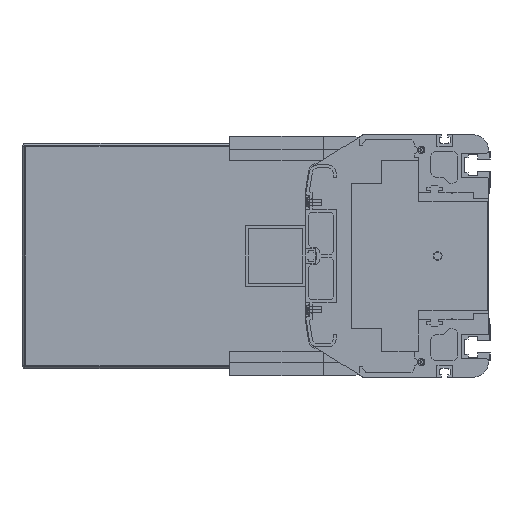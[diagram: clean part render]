
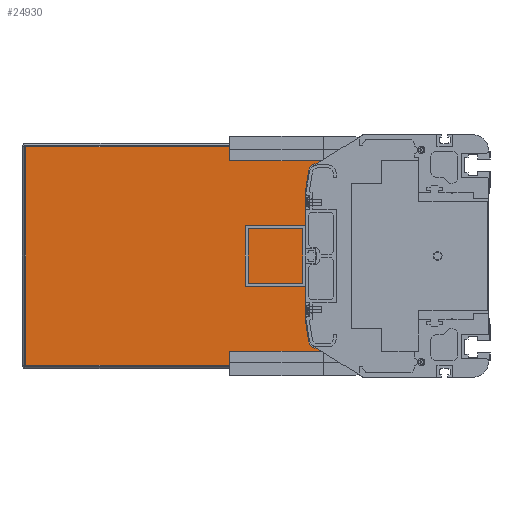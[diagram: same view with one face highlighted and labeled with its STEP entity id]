
A CAD part, left-side view. The second image highlights one B-rep face of the part: STEP entity #24930.
In plain terms, the highlighted planar face has unit normal (-1, 0, 0).
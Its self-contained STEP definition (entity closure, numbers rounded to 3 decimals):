
#1623=DIRECTION('',(0.,1.,0.));
#1624=VECTOR('',#1623,220.5);
#1625=CARTESIAN_POINT('',(4386.5,86.,72.));
#1626=LINE('',#1625,#1624);
#1674=DIRECTION('',(0.,-1.,0.));
#1675=VECTOR('',#1674,220.5);
#1676=CARTESIAN_POINT('',(4386.5,306.5,-72.));
#1677=LINE('',#1676,#1675);
#1733=DIRECTION('',(0.,0.,-1.));
#1734=VECTOR('',#1733,144.);
#1735=CARTESIAN_POINT('',(4386.5,306.5,72.));
#1736=LINE('',#1735,#1734);
#1767=CARTESIAN_POINT('',(4386.5,114.728,56.));
#1768=DIRECTION('',(-1.,0.,0.));
#1769=DIRECTION('',(0.,0.,1.));
#1770=AXIS2_PLACEMENT_3D('',#1767,#1768,#1769);
#1772=DIRECTION('',(0.,0.156,-0.988));
#1773=VECTOR('',#1772,14.963);
#1774=CARTESIAN_POINT('',(4386.5,119.666,56.78));
#1775=LINE('',#1774,#1773);
#1776=DIRECTION('',(0.,-0.156,-0.988));
#1777=VECTOR('',#1776,14.963);
#1778=CARTESIAN_POINT('',(4386.5,122.,-42.));
#1779=LINE('',#1778,#1777);
#1780=CARTESIAN_POINT('',(4386.5,114.728,-56.));
#1781=DIRECTION('',(-1.,0.,0.));
#1782=DIRECTION('',(0.,0.988,-0.156));
#1783=AXIS2_PLACEMENT_3D('',#1780,#1781,#1782);
#1790=DIRECTION('',(0.,0.,-1.));
#1791=VECTOR('',#1790,11.);
#1792=CARTESIAN_POINT('',(4386.5,86.,-61.));
#1793=LINE('',#1792,#1791);
#1799=DIRECTION('',(0.,0.,-1.));
#1800=VECTOR('',#1799,11.);
#1801=CARTESIAN_POINT('',(4386.5,86.,72.));
#1802=LINE('',#1801,#1800);
#3230=DIRECTION('',(0.,1.,0.));
#3231=VECTOR('',#3230,28.728);
#3232=CARTESIAN_POINT('',(4386.5,86.,-61.));
#3233=LINE('',#3232,#3231);
#3250=DIRECTION('',(0.,0.,1.));
#3251=VECTOR('',#3250,84.);
#3252=CARTESIAN_POINT('',(4386.5,122.,-42.));
#3253=LINE('',#3252,#3251);
#3274=DIRECTION('',(0.,-1.,0.));
#3275=VECTOR('',#3274,28.728);
#3276=CARTESIAN_POINT('',(4386.5,114.728,61.));
#3277=LINE('',#3276,#3275);
#19278=CARTESIAN_POINT('',(4386.5,306.5,-72.));
#19279=CARTESIAN_POINT('',(4386.5,86.,-72.));
#19280=VERTEX_POINT('',#19278);
#19281=VERTEX_POINT('',#19279);
#19282=CARTESIAN_POINT('',(4386.5,86.,-61.));
#19283=VERTEX_POINT('',#19282);
#19284=CARTESIAN_POINT('',(4386.5,114.728,-61.));
#19285=VERTEX_POINT('',#19284);
#19286=CARTESIAN_POINT('',(4386.5,119.666,-56.78));
#19287=VERTEX_POINT('',#19286);
#19288=CARTESIAN_POINT('',(4386.5,122.,-42.));
#19289=VERTEX_POINT('',#19288);
#19290=CARTESIAN_POINT('',(4386.5,122.,42.));
#19291=VERTEX_POINT('',#19290);
#19292=CARTESIAN_POINT('',(4386.5,119.666,56.78));
#19293=VERTEX_POINT('',#19292);
#19294=CARTESIAN_POINT('',(4386.5,114.728,61.));
#19295=VERTEX_POINT('',#19294);
#19296=CARTESIAN_POINT('',(4386.5,86.,61.));
#19297=VERTEX_POINT('',#19296);
#19298=CARTESIAN_POINT('',(4386.5,86.,72.));
#19299=VERTEX_POINT('',#19298);
#19300=CARTESIAN_POINT('',(4386.5,306.5,72.));
#19301=VERTEX_POINT('',#19300);
#24902=CARTESIAN_POINT('',(4386.5,196.25,0.));
#24903=DIRECTION('',(1.,0.,0.));
#24904=DIRECTION('',(0.,0.,-1.));
#24905=AXIS2_PLACEMENT_3D('',#24902,#24903,#24904);
#24906=PLANE('',#24905);
#24907=ORIENTED_EDGE('',*,*,#24775,.F.);
#24908=ORIENTED_EDGE('',*,*,#24871,.F.);
#24909=ORIENTED_EDGE('',*,*,#24726,.F.);
#24911=ORIENTED_EDGE('',*,*,#24910,.T.);
#24913=ORIENTED_EDGE('',*,*,#24912,.F.);
#24915=ORIENTED_EDGE('',*,*,#24914,.T.);
#24917=ORIENTED_EDGE('',*,*,#24916,.T.);
#24919=ORIENTED_EDGE('',*,*,#24918,.F.);
#24921=ORIENTED_EDGE('',*,*,#24920,.T.);
#24923=ORIENTED_EDGE('',*,*,#24922,.T.);
#24925=ORIENTED_EDGE('',*,*,#24924,.F.);
#24927=ORIENTED_EDGE('',*,*,#24926,.T.);
#24928=EDGE_LOOP('',(#24907,#24908,#24909,#24911,#24913,#24915,#24917,#24919,
#24921,#24923,#24925,#24927));
#24929=FACE_OUTER_BOUND('',#24928,.F.);
#24930=ADVANCED_FACE('',(#24929),#24906,.F.);
#1771=CIRCLE('',#1770,5.);
#1784=CIRCLE('',#1783,5.);
#24726=EDGE_CURVE('',#19299,#19301,#1626,.T.);
#24775=EDGE_CURVE('',#19280,#19281,#1677,.T.);
#24871=EDGE_CURVE('',#19301,#19280,#1736,.T.);
#24910=EDGE_CURVE('',#19299,#19297,#1802,.T.);
#24912=EDGE_CURVE('',#19295,#19297,#3277,.T.);
#24914=EDGE_CURVE('',#19295,#19293,#1771,.T.);
#24916=EDGE_CURVE('',#19293,#19291,#1775,.T.);
#24918=EDGE_CURVE('',#19289,#19291,#3253,.T.);
#24920=EDGE_CURVE('',#19289,#19287,#1779,.T.);
#24922=EDGE_CURVE('',#19287,#19285,#1784,.T.);
#24924=EDGE_CURVE('',#19283,#19285,#3233,.T.);
#24926=EDGE_CURVE('',#19283,#19281,#1793,.T.);
